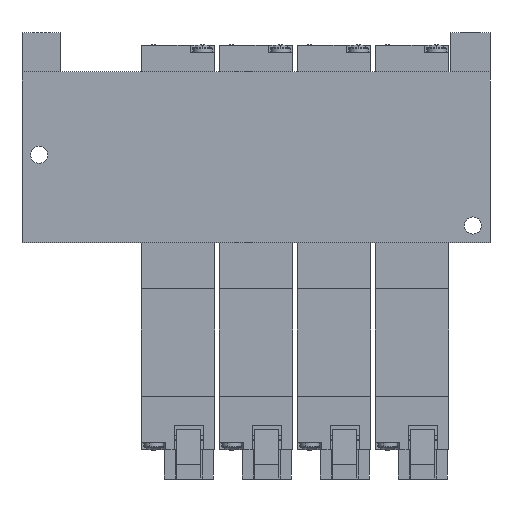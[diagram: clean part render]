
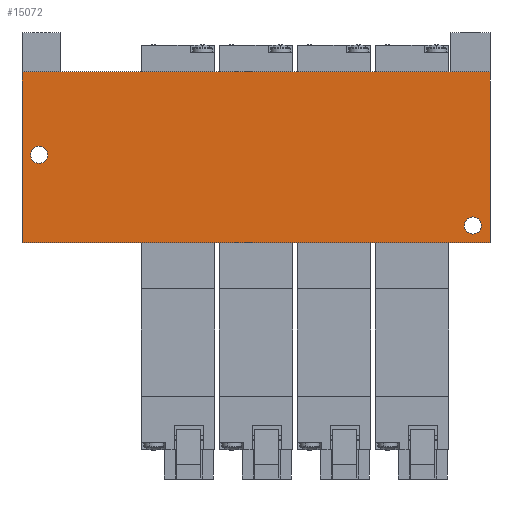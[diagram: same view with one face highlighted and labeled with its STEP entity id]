
A CAD part, front view. The second image highlights one B-rep face of the part: STEP entity #15072.
In plain terms, the highlighted planar face has unit normal (0, -1, 0).
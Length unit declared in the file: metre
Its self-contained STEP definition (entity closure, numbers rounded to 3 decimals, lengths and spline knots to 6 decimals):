
#275 = VERTEX_POINT ( 'NONE', #3650 ) ;
#455 = CARTESIAN_POINT ( 'NONE',  ( -0.048, -0.0095, -0.0175 ) ) ;
#687 = VECTOR ( 'NONE', #7075, 1. ) ;
#770 = ORIENTED_EDGE ( 'NONE', *, *, #15064, .F. ) ;
#863 = CARTESIAN_POINT ( 'NONE',  ( 0.048, -0.0095, 0.0175 ) ) ;
#1377 = LINE ( 'NONE', #11762, #10713 ) ;
#1596 = EDGE_LOOP ( 'NONE', ( #4054, #5427, #1979, #770 ) ) ;
#1964 = CARTESIAN_POINT ( 'NONE',  ( 0.048, -0.0095, 0. ) ) ;
#1979 = ORIENTED_EDGE ( 'NONE', *, *, #14297, .F. ) ;
#2090 = DIRECTION ( 'NONE',  ( 0., 1., 0. ) ) ;
#2588 = CIRCLE ( 'NONE', #3180, 0.00175 ) ;
#2866 = CARTESIAN_POINT ( 'NONE',  ( 0.0445, -0.0095, -0.01225 ) ) ;
#3168 = CARTESIAN_POINT ( 'NONE',  ( -0.048, -0.0095, 0.0175 ) ) ;
#3180 = AXIS2_PLACEMENT_3D ( 'NONE', #13361, #6033, #14593 ) ;
#3252 = CARTESIAN_POINT ( 'NONE',  ( 0., -0.0095, 0.0175 ) ) ;
#3373 = CARTESIAN_POINT ( 'NONE',  ( 0., -0.0095, -0.0175 ) ) ;
#3535 = VERTEX_POINT ( 'NONE', #6895 ) ;
#3650 = CARTESIAN_POINT ( 'NONE',  ( -0.0445, -0.0095, 0.00225 ) ) ;
#3804 = CARTESIAN_POINT ( 'NONE',  ( 0.0445, -0.0095, -0.01575 ) ) ;
#3922 = LINE ( 'NONE', #3373, #687 ) ;
#4054 = ORIENTED_EDGE ( 'NONE', *, *, #5329, .F. ) ;
#4057 = VERTEX_POINT ( 'NONE', #14035 ) ;
#4252 = VERTEX_POINT ( 'NONE', #3804 ) ;
#4299 = EDGE_LOOP ( 'NONE', ( #13828, #5563 ) ) ;
#4372 = DIRECTION ( 'NONE',  ( 0., -1., 0. ) ) ;
#4425 = DIRECTION ( 'NONE',  ( 1., 0., 0. ) ) ;
#4645 = VERTEX_POINT ( 'NONE', #455 ) ;
#4926 = CARTESIAN_POINT ( 'NONE',  ( 0.0445, -0.0095, -0.014 ) ) ;
#4972 = CARTESIAN_POINT ( 'NONE',  ( 0.0445, -0.0095, -0.014 ) ) ;
#5009 = DIRECTION ( 'NONE',  ( 0., -1., 0. ) ) ;
#5025 = DIRECTION ( 'NONE',  ( 0., 0., 1. ) ) ;
#5329 = EDGE_CURVE ( 'NONE', #4645, #14303, #1377, .T. ) ;
#5427 = ORIENTED_EDGE ( 'NONE', *, *, #12495, .F. ) ;
#5563 = ORIENTED_EDGE ( 'NONE', *, *, #13209, .F. ) ;
#5776 = LINE ( 'NONE', #3252, #12300 ) ;
#5855 = CARTESIAN_POINT ( 'NONE',  ( 0.048, -0.0095, -0.0175 ) ) ;
#6033 = DIRECTION ( 'NONE',  ( 0., -1., 0. ) ) ;
#6164 = DIRECTION ( 'NONE',  ( 0., 0., 1. ) ) ;
#6171 = VERTEX_POINT ( 'NONE', #2866 ) ;
#6241 = EDGE_CURVE ( 'NONE', #4252, #6171, #10127, .T. ) ;
#6895 = CARTESIAN_POINT ( 'NONE',  ( -0.0445, -0.0095, -0.00125 ) ) ;
#6920 = ORIENTED_EDGE ( 'NONE', *, *, #12061, .F. ) ;
#7075 = DIRECTION ( 'NONE',  ( -1., 0., 0. ) ) ;
#7350 = VECTOR ( 'NONE', #11617, 1. ) ;
#7562 = AXIS2_PLACEMENT_3D ( 'NONE', #11694, #4372, #12924 ) ;
#7722 = LINE ( 'NONE', #1964, #7350 ) ;
#8400 = AXIS2_PLACEMENT_3D ( 'NONE', #863, #2090, #10616 ) ;
#8468 = AXIS2_PLACEMENT_3D ( 'NONE', #4926, #13490, #6164 ) ;
#9030 = FACE_BOUND ( 'NONE', #4299, .T. ) ;
#9064 = EDGE_LOOP ( 'NONE', ( #6920, #10526 ) ) ;
#9375 = PLANE ( 'NONE',  #8400 ) ;
#9906 = AXIS2_PLACEMENT_3D ( 'NONE', #4972, #5009, #5025 ) ;
#10069 = VERTEX_POINT ( 'NONE', #5855 ) ;
#10127 = CIRCLE ( 'NONE', #9906, 0.00175 ) ;
#10526 = ORIENTED_EDGE ( 'NONE', *, *, #6241, .F. ) ;
#10616 = DIRECTION ( 'NONE',  ( 0., 0., -1. ) ) ;
#10713 = VECTOR ( 'NONE', #11580, 1. ) ;
#11113 = EDGE_CURVE ( 'NONE', #275, #3535, #12376, .T. ) ;
#11580 = DIRECTION ( 'NONE',  ( 0., 0., 1. ) ) ;
#11617 = DIRECTION ( 'NONE',  ( 0., 0., -1. ) ) ;
#11694 = CARTESIAN_POINT ( 'NONE',  ( -0.0445, -0.0095, 0.0005 ) ) ;
#11762 = CARTESIAN_POINT ( 'NONE',  ( -0.048, -0.0095, 0. ) ) ;
#12061 = EDGE_CURVE ( 'NONE', #6171, #4252, #15421, .T. ) ;
#12300 = VECTOR ( 'NONE', #4425, 1. ) ;
#12376 = CIRCLE ( 'NONE', #7562, 0.00175 ) ;
#12495 = EDGE_CURVE ( 'NONE', #10069, #4645, #3922, .T. ) ;
#12689 = FACE_BOUND ( 'NONE', #9064, .T. ) ;
#12924 = DIRECTION ( 'NONE',  ( 0., 0., 1. ) ) ;
#13209 = EDGE_CURVE ( 'NONE', #3535, #275, #2588, .T. ) ;
#13361 = CARTESIAN_POINT ( 'NONE',  ( -0.0445, -0.0095, 0.0005 ) ) ;
#13490 = DIRECTION ( 'NONE',  ( 0., -1., 0. ) ) ;
#13828 = ORIENTED_EDGE ( 'NONE', *, *, #11113, .F. ) ;
#14035 = CARTESIAN_POINT ( 'NONE',  ( 0.048, -0.0095, 0.0175 ) ) ;
#14297 = EDGE_CURVE ( 'NONE', #4057, #10069, #7722, .T. ) ;
#14303 = VERTEX_POINT ( 'NONE', #3168 ) ;
#14593 = DIRECTION ( 'NONE',  ( 0., 0., 1. ) ) ;
#15064 = EDGE_CURVE ( 'NONE', #14303, #4057, #5776, .T. ) ;
#15072 = ADVANCED_FACE ( 'NONE', ( #12689, #9030, #15561 ), #9375, .F. ) ;
#15421 = CIRCLE ( 'NONE', #8468, 0.00175 ) ;
#15561 = FACE_OUTER_BOUND ( 'NONE', #1596, .T. ) ;
